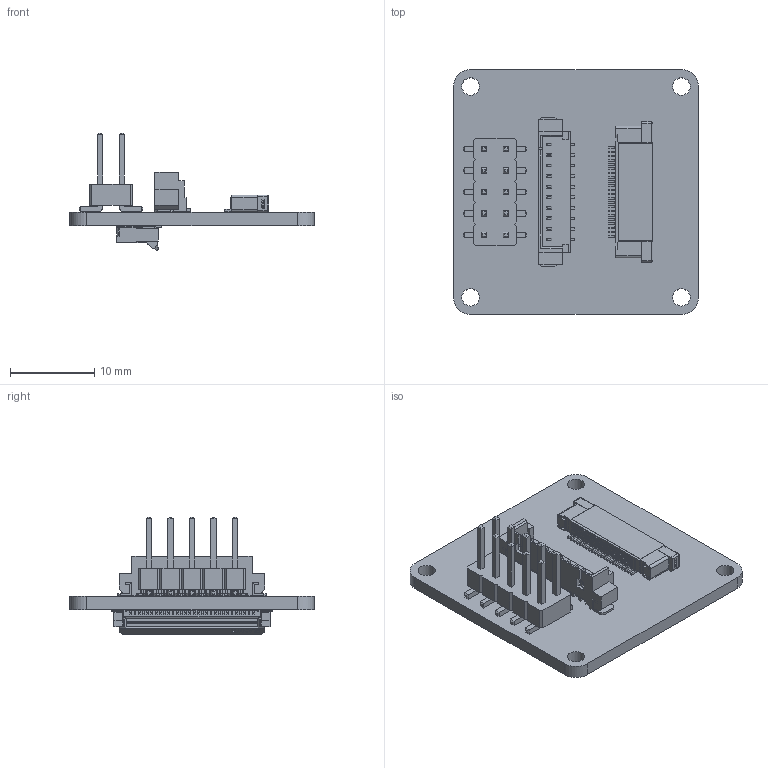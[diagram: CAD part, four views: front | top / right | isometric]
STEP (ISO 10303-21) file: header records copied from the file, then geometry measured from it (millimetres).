
FILE_DESCRIPTION(('FreeCAD Model'),'2;1');
FILE_NAME('Open CASCADE Shape Model','2025-03-17T16:38:05',(''),(''), 'Open CASCADE STEP processor 7.8','FreeCAD','Unknown');
FILE_SCHEMA(('AUTOMOTIVE_DESIGN { 1 0 10303 214 1 1 1 1 }'));
Length unit declared in the file: millimetre
Products named in the file (10): ADP-MV1-V20 1; FPC22-05-H-UP; x05b20u22t; PinHeader_2x05_P2.54mm_Vertical_SMD; PinHeader_2x05_P254mm_Vertical_SMD; Molex_PicoBlade_53398-1071_1x10-1MP_P1.25mm_Vertical; Molex_53398_1071; 8.01-30P-LOGO; Part; _autosave-ADP-MV1-V20_PCB
Assembly tree (9 placements, depth 3):
  ADP-MV1-V20 1
    FPC22-05-H-UP
      x05b20u22t
    PinHeader_2x05_P2.54mm_Vertical_SMD
      PinHeader_2x05_P254mm_Vertical_SMD
    Molex_PicoBlade_53398-1071_1x10-1MP_P1.25mm_Vertical
      Molex_53398_1071
    8.01-30P-LOGO
      Part
    _autosave-ADP-MV1-V20_PCB
Bounding box: 29 x 29 x 13.88 mm (x, y, z)
Volume: 1908.8 mm3; surface area: 3613.1 mm2
Topology: 5 solids, 5 shells, 3362 faces, 9336 edges, 6155 vertices
Faces by surface type: plane 2390, cylinder 961, bspline 7, sphere 4
Full cylindrical faces by diameter (mm): 2.05 x4
Entity records: 112296 total; most frequent: CARTESIAN_POINT 27208, ORIENTED_EDGE 18672, DIRECTION 14207, EDGE_CURVE 9336, LINE 6493, VECTOR 6493, VERTEX_POINT 6155, AXIS2_PLACEMENT_3D 3857
